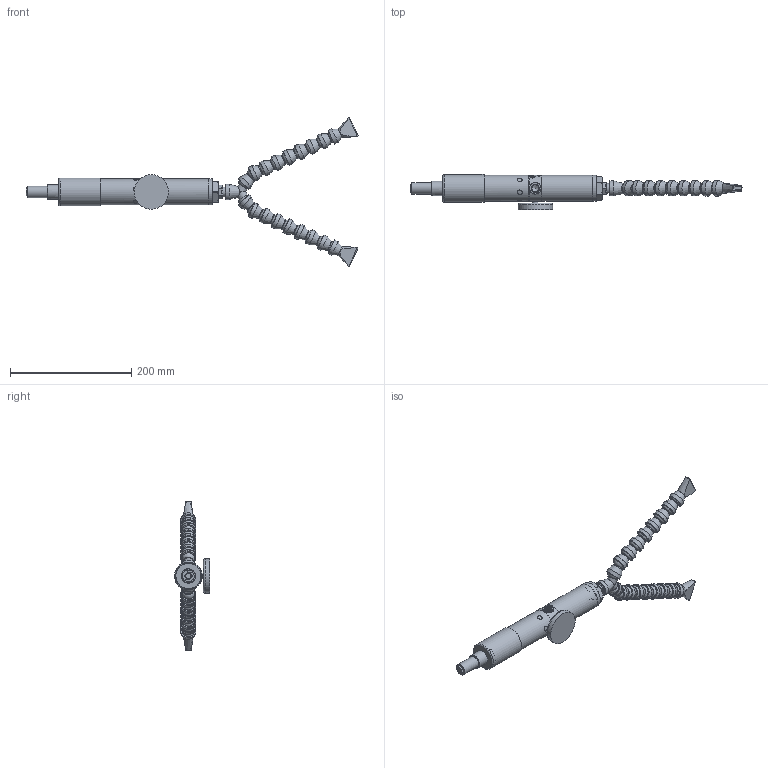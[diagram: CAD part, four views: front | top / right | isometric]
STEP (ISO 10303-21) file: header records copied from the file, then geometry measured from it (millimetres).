
FILE_DESCRIPTION (( 'STEP AP214' ), '1' );
FILE_NAME ('SIMP - CS_15 YR_Q1200.STEP', '2023-06-02T11:43:02', ( '' ), ( '' ), 'SwSTEP 2.0', 'SolidWorks 2021', '' );
FILE_SCHEMA (( 'AUTOMOTIVE_DESIGN' ));
Length unit declared in the file: millimetre
Products named in the file (1): SIMP - CS_15 YR_Q1200
Bounding box: 548.32 x 57.97 x 245.88 mm (x, y, z)
Volume: 498263.6 mm3; surface area: 141436.5 mm2
Topology: 25 solids, 30 shells, 1029 faces, 2517 edges, 1618 vertices
Faces by surface type: plane 357, bspline 298, cylinder 224, cone 82, torus 66, sphere 2
Full cylindrical faces by diameter (mm): 3.2 x1, 3.3 x1, 4 x1, 6 x1, 6.5 x1, 7 x1, 8 x6, 9 x1, 9.4 x1, 9.5 x1, 10 x1, 11.8 x7, 12 x2, 12.2 x1, 12.3 x16, 13.16 x1, 14.2 x1, 16 x2, 16.2 x1, 16.3 x16, 19 x2, 19.3 x1, 21 x17, 23.9 x1, 25 x19, 35.8 x1, 39.8 x2, 40 x1, 40.4 x1, 40.47 x2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
Entity records: 64008 total; most frequent: CARTESIAN_POINT 32592, ORIENTED_EDGE 4352, DIRECTION 3158, EDGE_CURVE 2176, VERTEX_POINT 1538, EDGE_LOOP 1402, AXIS2_PLACEMENT_3D 1356, FACE_OUTER_BOUND 1202
